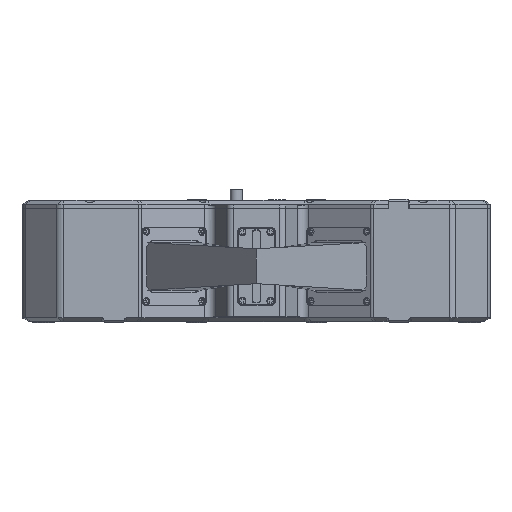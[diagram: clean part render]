
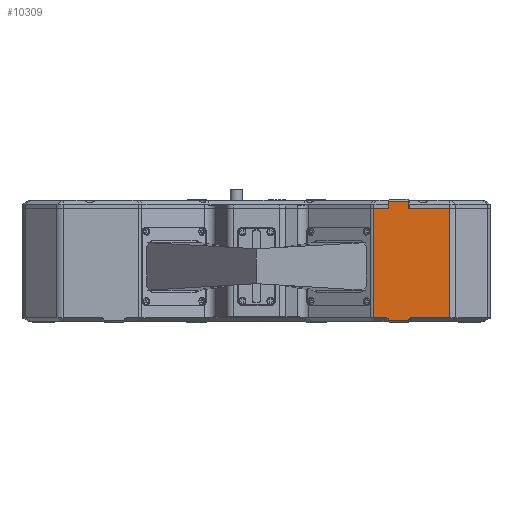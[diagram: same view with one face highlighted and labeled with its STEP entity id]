
A CAD part, top view. The second image highlights one B-rep face of the part: STEP entity #10309.
In plain terms, the highlighted planar face has unit normal (0, 0, -1).
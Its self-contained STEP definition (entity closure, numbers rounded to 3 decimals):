
#2234=DIRECTION('',(0.,1.,0.));
#2235=VECTOR('',#2234,59.5);
#2236=CARTESIAN_POINT('',(232.929,3.216,-67.));
#2237=LINE('',#2236,#2235);
#2247=DIRECTION('',(-1.,0.,0.));
#2248=VECTOR('',#2247,22.179);
#2249=CARTESIAN_POINT('',(232.929,62.716,-67.));
#2250=LINE('',#2249,#2248);
#2251=DIRECTION('',(-1.,0.,0.));
#2252=VECTOR('',#2251,7.964);
#2253=CARTESIAN_POINT('',(199.75,62.716,-67.));
#2254=LINE('',#2253,#2252);
#2255=CARTESIAN_POINT('',(198.35,3.216,-67.));
#2256=CARTESIAN_POINT('',(198.378,3.216,-67.));
#2257=CARTESIAN_POINT('',(198.435,3.214,-67.));
#2258=CARTESIAN_POINT('',(198.523,3.204,-67.));
#2259=CARTESIAN_POINT('',(198.606,3.189,-67.));
#2260=CARTESIAN_POINT('',(198.694,3.167,-67.));
#2261=CARTESIAN_POINT('',(198.773,3.141,-67.));
#2262=CARTESIAN_POINT('',(198.854,3.109,-67.));
#2263=CARTESIAN_POINT('',(198.936,3.069,-67.));
#2264=CARTESIAN_POINT('',(199.019,3.021,-67.));
#2265=CARTESIAN_POINT('',(199.093,2.971,-67.));
#2266=CARTESIAN_POINT('',(199.165,2.916,-67.));
#2267=CARTESIAN_POINT('',(199.24,2.849,-67.));
#2268=CARTESIAN_POINT('',(199.307,2.782,-67.));
#2269=CARTESIAN_POINT('',(199.368,2.711,-67.));
#2270=CARTESIAN_POINT('',(199.432,2.628,-67.));
#2271=CARTESIAN_POINT('',(199.488,2.544,-67.));
#2272=CARTESIAN_POINT('',(199.539,2.457,-67.));
#2273=CARTESIAN_POINT('',(199.587,2.361,-67.));
#2274=CARTESIAN_POINT('',(199.628,2.264,-67.));
#2275=CARTESIAN_POINT('',(199.666,2.159,-67.));
#2276=CARTESIAN_POINT('',(199.695,2.055,-67.));
#2277=CARTESIAN_POINT('',(199.72,1.943,-67.));
#2278=CARTESIAN_POINT('',(199.737,1.832,-67.));
#2279=CARTESIAN_POINT('',(199.744,1.755,-67.));
#2280=CARTESIAN_POINT('',(199.747,1.716,-67.));
#2282=CARTESIAN_POINT('',(210.753,1.716,-67.));
#2283=CARTESIAN_POINT('',(210.756,1.755,-67.));
#2284=CARTESIAN_POINT('',(210.763,1.833,-67.));
#2285=CARTESIAN_POINT('',(210.781,1.95,-67.));
#2286=CARTESIAN_POINT('',(210.808,2.066,-67.));
#2287=CARTESIAN_POINT('',(210.84,2.175,-67.));
#2288=CARTESIAN_POINT('',(210.882,2.289,-67.));
#2289=CARTESIAN_POINT('',(210.929,2.394,-67.));
#2290=CARTESIAN_POINT('',(210.983,2.497,-67.));
#2291=CARTESIAN_POINT('',(211.041,2.59,-67.));
#2292=CARTESIAN_POINT('',(211.108,2.682,-67.));
#2293=CARTESIAN_POINT('',(211.175,2.762,-67.));
#2294=CARTESIAN_POINT('',(211.243,2.833,-67.));
#2295=CARTESIAN_POINT('',(211.323,2.906,-67.));
#2296=CARTESIAN_POINT('',(211.397,2.964,-67.));
#2297=CARTESIAN_POINT('',(211.478,3.019,-67.));
#2298=CARTESIAN_POINT('',(211.56,3.066,-67.));
#2299=CARTESIAN_POINT('',(211.643,3.107,-67.));
#2300=CARTESIAN_POINT('',(211.727,3.141,-67.));
#2301=CARTESIAN_POINT('',(211.809,3.168,-67.));
#2302=CARTESIAN_POINT('',(211.896,3.19,-67.));
#2303=CARTESIAN_POINT('',(211.977,3.204,-67.));
#2304=CARTESIAN_POINT('',(212.066,3.214,-67.));
#2305=CARTESIAN_POINT('',(212.122,3.216,-67.));
#2306=CARTESIAN_POINT('',(212.15,3.216,-67.));
#2308=DIRECTION('',(1.,0.,0.));
#2309=VECTOR('',#2308,20.779);
#2310=CARTESIAN_POINT('',(212.15,3.216,-67.));
#2311=LINE('',#2310,#2309);
#2374=DIRECTION('',(1.,0.,0.));
#2375=VECTOR('',#2374,11.007);
#2376=CARTESIAN_POINT('',(199.747,1.716,-67.));
#2377=LINE('',#2376,#2375);
#2448=DIRECTION('',(1.,0.,0.));
#2449=VECTOR('',#2448,6.542);
#2450=CARTESIAN_POINT('',(191.808,3.216,-67.));
#2451=LINE('',#2450,#2449);
#2462=CARTESIAN_POINT('',(191.786,3.216,-67.));
#2463=CARTESIAN_POINT('',(191.793,3.216,-67.));
#2464=CARTESIAN_POINT('',(191.801,3.216,-67.));
#2465=CARTESIAN_POINT('',(191.808,3.216,-67.));
#5026=DIRECTION('',(0.,-1.,0.));
#5027=VECTOR('',#5026,59.5);
#5028=CARTESIAN_POINT('',(191.786,62.716,-67.));
#5029=LINE('',#5028,#5027);
#6724=DIRECTION('',(1.,0.,0.));
#6725=VECTOR('',#6724,11.);
#6726=CARTESIAN_POINT('',(199.75,66.716,-67.));
#6727=LINE('',#6726,#6725);
#6744=DIRECTION('',(0.,-1.,0.));
#6745=VECTOR('',#6744,4.);
#6746=CARTESIAN_POINT('',(199.75,66.716,-67.));
#6747=LINE('',#6746,#6745);
#6780=DIRECTION('',(0.,-1.,0.));
#6781=VECTOR('',#6780,4.);
#6782=CARTESIAN_POINT('',(210.75,66.716,-67.));
#6783=LINE('',#6782,#6781);
#8310=CARTESIAN_POINT('',(232.929,62.716,-67.));
#8311=VERTEX_POINT('',#8310);
#8312=CARTESIAN_POINT('',(210.75,62.716,-67.));
#8313=VERTEX_POINT('',#8312);
#8314=CARTESIAN_POINT('',(199.75,62.716,-67.));
#8315=CARTESIAN_POINT('',(191.786,62.716,-67.));
#8316=VERTEX_POINT('',#8314);
#8317=VERTEX_POINT('',#8315);
#8787=CARTESIAN_POINT('',(232.929,3.216,-67.));
#8788=VERTEX_POINT('',#8787);
#8789=CARTESIAN_POINT('',(212.15,3.216,-67.));
#8790=VERTEX_POINT('',#8789);
#8791=VERTEX_POINT('',#2282);
#8792=CARTESIAN_POINT('',(199.747,1.716,-67.));
#8793=VERTEX_POINT('',#8792);
#8794=VERTEX_POINT('',#2255);
#8795=CARTESIAN_POINT('',(191.808,3.216,-67.));
#8796=VERTEX_POINT('',#8795);
#8797=VERTEX_POINT('',#2462);
#8798=CARTESIAN_POINT('',(199.75,66.716,-67.));
#8799=VERTEX_POINT('',#8798);
#8800=CARTESIAN_POINT('',(210.75,66.716,-67.));
#8801=VERTEX_POINT('',#8800);
#10277=CARTESIAN_POINT('',(212.357,34.216,-67.));
#10278=DIRECTION('',(0.,0.,1.));
#10279=DIRECTION('',(1.,0.,0.));
#10280=AXIS2_PLACEMENT_3D('',#10277,#10278,#10279);
#10281=PLANE('',#10280);
#10283=ORIENTED_EDGE('',*,*,#10282,.T.);
#10284=ORIENTED_EDGE('',*,*,#10267,.T.);
#10286=ORIENTED_EDGE('',*,*,#10285,.T.);
#10288=ORIENTED_EDGE('',*,*,#10287,.F.);
#10290=ORIENTED_EDGE('',*,*,#10289,.F.);
#10292=ORIENTED_EDGE('',*,*,#10291,.T.);
#10294=ORIENTED_EDGE('',*,*,#10293,.T.);
#10296=ORIENTED_EDGE('',*,*,#10295,.T.);
#10298=ORIENTED_EDGE('',*,*,#10297,.T.);
#10300=ORIENTED_EDGE('',*,*,#10299,.T.);
#10302=ORIENTED_EDGE('',*,*,#10301,.T.);
#10304=ORIENTED_EDGE('',*,*,#10303,.T.);
#10306=ORIENTED_EDGE('',*,*,#10305,.T.);
#10307=EDGE_LOOP('',(#10283,#10284,#10286,#10288,#10290,#10292,#10294,#10296,
#10298,#10300,#10302,#10304,#10306));
#10308=FACE_OUTER_BOUND('',#10307,.F.);
#2281=B_SPLINE_CURVE_WITH_KNOTS('',3,(#2255,#2256,#2257,#2258,#2259,#2260,#2261,
#2262,#2263,#2264,#2265,#2266,#2267,#2268,#2269,#2270,#2271,#2272,#2273,#2274,
#2275,#2276,#2277,#2278,#2279,#2280),.UNSPECIFIED.,.F.,.F.,(4,1,1,1,1,1,1,1,1,1,
1,1,1,1,1,1,1,1,1,1,1,1,1,4),(0.,0.043,0.087,
0.13,0.174,0.217,0.261,
0.304,0.348,0.391,0.435,
0.478,0.522,0.565,0.609,
0.652,0.696,0.739,0.783,
0.826,0.87,0.913,0.957,1.),
.UNSPECIFIED.);
#2307=B_SPLINE_CURVE_WITH_KNOTS('',3,(#2282,#2283,#2284,#2285,#2286,#2287,#2288,
#2289,#2290,#2291,#2292,#2293,#2294,#2295,#2296,#2297,#2298,#2299,#2300,#2301,
#2302,#2303,#2304,#2305,#2306),.UNSPECIFIED.,.F.,.F.,(4,1,1,1,1,1,1,1,1,1,1,1,1,
1,1,1,1,1,1,1,1,1,4),(0.,0.045,0.091,
0.136,0.182,0.227,0.273,
0.318,0.364,0.409,0.455,0.5,
0.545,0.591,0.636,0.682,
0.727,0.773,0.818,0.864,
0.909,0.955,1.),.UNSPECIFIED.);
#2466=B_SPLINE_CURVE_WITH_KNOTS('',3,(#2462,#2463,#2464,#2465),.UNSPECIFIED.,
.F.,.F.,(4,4),(0.,1.),.UNSPECIFIED.);
#10267=EDGE_CURVE('',#8788,#8311,#2237,.T.);
#10282=EDGE_CURVE('',#8790,#8788,#2311,.T.);
#10285=EDGE_CURVE('',#8311,#8313,#2250,.T.);
#10287=EDGE_CURVE('',#8801,#8313,#6783,.T.);
#10289=EDGE_CURVE('',#8799,#8801,#6727,.T.);
#10291=EDGE_CURVE('',#8799,#8316,#6747,.T.);
#10293=EDGE_CURVE('',#8316,#8317,#2254,.T.);
#10295=EDGE_CURVE('',#8317,#8797,#5029,.T.);
#10297=EDGE_CURVE('',#8797,#8796,#2466,.T.);
#10299=EDGE_CURVE('',#8796,#8794,#2451,.T.);
#10301=EDGE_CURVE('',#8794,#8793,#2281,.T.);
#10303=EDGE_CURVE('',#8793,#8791,#2377,.T.);
#10305=EDGE_CURVE('',#8791,#8790,#2307,.T.);
#10309=ADVANCED_FACE('',(#10308),#10281,.F.);
